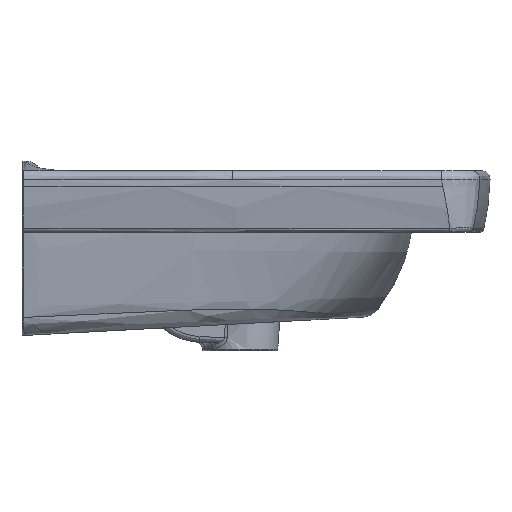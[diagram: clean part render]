
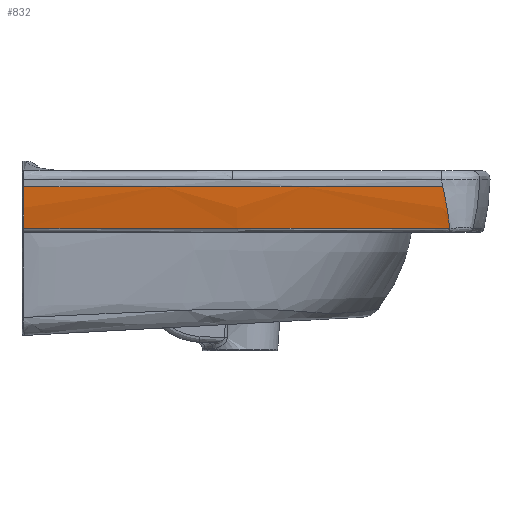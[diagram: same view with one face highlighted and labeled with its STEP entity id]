
A CAD part, left-side view. The second image highlights one B-rep face of the part: STEP entity #832.
In plain terms, the highlighted face is a revolution surface.
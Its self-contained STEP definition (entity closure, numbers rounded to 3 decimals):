
#59=SURFACE_OF_REVOLUTION('',#4614,#63);
#63=AXIS1_PLACEMENT('',#47421,#5201);
#347=CIRCLE('',#4824,6492.744);
#832=ADVANCED_FACE('',(#1151),#59,.T.);
#1151=FACE_OUTER_BOUND('',#1450,.T.);
#1450=EDGE_LOOP('',(#2614,#2615,#2616,#2617));
#2614=ORIENTED_EDGE('',*,*,#4024,.T.);
#2615=ORIENTED_EDGE('',*,*,#4025,.T.);
#2616=ORIENTED_EDGE('',*,*,#4018,.T.);
#2617=ORIENTED_EDGE('',*,*,#4005,.F.);
#3356=VERTEX_POINT('',#46772);
#3360=VERTEX_POINT('',#46798);
#3370=VERTEX_POINT('',#47144);
#3373=VERTEX_POINT('',#47409);
#4005=EDGE_CURVE('',#3360,#3356,#347,.T.);
#4018=EDGE_CURVE('',#3370,#3356,#4607,.T.);
#4024=EDGE_CURVE('',#3360,#3373,#4612,.T.);
#4025=EDGE_CURVE('',#3373,#3370,#4613,.T.);
#4607=B_SPLINE_CURVE_WITH_KNOTS('',3,(#47117,#47118,#47119,#47120,#47121,
#47122,#47123,#47124,#47125,#47126,#47127,#47128,#47129,#47130,#47131,#47132,
#47133,#47134,#47135,#47136,#47137,#47138,#47139,#47140,#47141,#47142,#47143),
 .UNSPECIFIED.,.F.,.F.,(4,2,1,2,2,2,2,2,2,2,2,2,2,4),(0.,0.063,0.125,0.156,
0.187,0.25,0.375,0.438,0.5,
0.625,0.75,0.812,0.875,1.),
 .UNSPECIFIED.);
#4612=B_SPLINE_CURVE_WITH_KNOTS('',3,(#47405,#47406,#47407,#47408),
 .UNSPECIFIED.,.F.,.F.,(4,4),(0.,1.),.UNSPECIFIED.);
#4613=B_SPLINE_CURVE_WITH_KNOTS('',3,(#47410,#47411,#47412,#47413),
 .UNSPECIFIED.,.F.,.F.,(4,4),(0.,1.),.UNSPECIFIED.);
#4614=B_SPLINE_CURVE_WITH_KNOTS('',3,(#47414,#47415,#47416,#47417,#47418,
#47419,#47420),.UNSPECIFIED.,.F.,.F.,(4,1,2,4),(0.,0.226,0.963,
1.),.UNSPECIFIED.);
#4824=AXIS2_PLACEMENT_3D('',#46799,#5188,#5189);
#5188=DIRECTION('',(0.,0.,1.));
#5189=DIRECTION('',(1.,0.,0.));
#5201=DIRECTION('',(0.,0.,1.));
#46772=CARTESIAN_POINT('',(-272.699,-395.551,-14.97));
#46798=CARTESIAN_POINT('',(-270.316,-1.735,-14.97));
#46799=CARTESIAN_POINT('',(6218.131,-237.901,-14.97));
#47117=CARTESIAN_POINT('',(-267.071,-402.098,-54.271));
#47118=CARTESIAN_POINT('',(-267.302,-402.051,-53.39));
#47119=CARTESIAN_POINT('',(-267.52,-401.982,-52.522));
#47120=CARTESIAN_POINT('',(-267.899,-401.836,-50.955));
#47121=CARTESIAN_POINT('',(-268.178,-401.717,-49.763));
#47122=CARTESIAN_POINT('',(-268.446,-401.583,-48.546));
#47123=CARTESIAN_POINT('',(-268.622,-401.489,-47.729));
#47124=CARTESIAN_POINT('',(-268.716,-401.437,-47.288));
#47125=CARTESIAN_POINT('',(-268.952,-401.3,-46.146));
#47126=CARTESIAN_POINT('',(-269.106,-401.202,-45.375));
#47127=CARTESIAN_POINT('',(-269.556,-400.89,-43.033));
#47128=CARTESIAN_POINT('',(-269.84,-400.658,-41.433));
#47129=CARTESIAN_POINT('',(-270.24,-400.274,-38.974));
#47130=CARTESIAN_POINT('',(-270.37,-400.14,-38.144));
#47131=CARTESIAN_POINT('',(-270.62,-399.86,-36.466));
#47132=CARTESIAN_POINT('',(-270.728,-399.728,-35.7));
#47133=CARTESIAN_POINT('',(-271.047,-399.317,-33.365));
#47134=CARTESIAN_POINT('',(-271.247,-399.021,-31.766));
#47135=CARTESIAN_POINT('',(-271.619,-398.389,-28.485));
#47136=CARTESIAN_POINT('',(-271.801,-398.028,-26.695));
#47137=CARTESIAN_POINT('',(-272.006,-397.569,-24.483));
#47138=CARTESIAN_POINT('',(-272.076,-397.403,-23.689));
#47139=CARTESIAN_POINT('',(-272.219,-397.041,-21.985));
#47140=CARTESIAN_POINT('',(-272.286,-396.862,-21.154));
#47141=CARTESIAN_POINT('',(-272.544,-396.107,-17.642));
#47142=CARTESIAN_POINT('',(-272.642,-395.754,-15.965));
#47143=CARTESIAN_POINT('',(-272.699,-395.551,-14.97));
#47144=CARTESIAN_POINT('',(-267.071,-402.098,-54.271));
#47405=CARTESIAN_POINT('',(-270.316,-1.735,-14.97));
#47406=CARTESIAN_POINT('',(-269.623,-1.735,-28.203));
#47407=CARTESIAN_POINT('',(-268.192,-1.735,-41.441));
#47408=CARTESIAN_POINT('',(-264.849,-1.737,-54.271));
#47409=CARTESIAN_POINT('',(-264.849,-1.737,-54.271));
#47410=CARTESIAN_POINT('',(-264.849,-1.737,-54.271));
#47411=CARTESIAN_POINT('',(-269.709,-135.13,-54.271));
#47412=CARTESIAN_POINT('',(-270.45,-268.658,-54.271));
#47413=CARTESIAN_POINT('',(-267.071,-402.098,-54.271));
#47414=CARTESIAN_POINT('',(-260.032,-10.,-70.328));
#47415=CARTESIAN_POINT('',(-261.462,-10.,-66.251));
#47416=CARTESIAN_POINT('',(-267.543,-10.,-48.912));
#47417=CARTESIAN_POINT('',(-269.825,-10.,-29.991));
#47418=CARTESIAN_POINT('',(-270.652,-10.,-14.209));
#47419=CARTESIAN_POINT('',(-270.692,-10.,-13.448));
#47420=CARTESIAN_POINT('',(-270.732,-10.,-12.687));
#47421=CARTESIAN_POINT('',(6218.131,-237.901,15.987));
